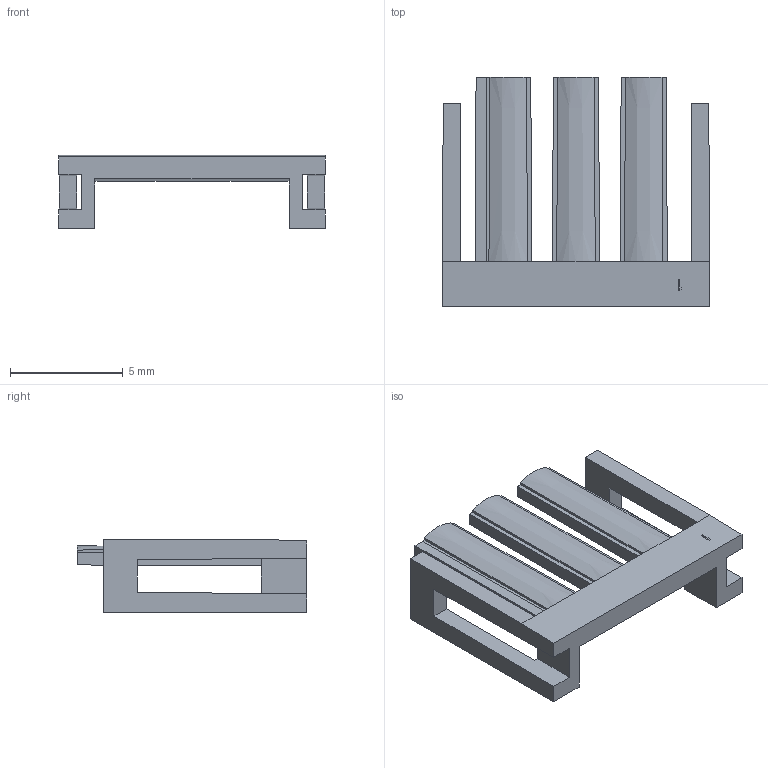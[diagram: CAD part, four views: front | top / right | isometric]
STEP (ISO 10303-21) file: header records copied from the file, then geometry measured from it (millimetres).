
FILE_DESCRIPTION((''),'2;1');
FILE_NAME('2064620300','2019-07-12T',('gga'),(''),'PRO/ENGINEER BY PARAMETRIC TECHNOLOGY CORPORATION, 2016010','PRO/ENGINEER BY PARAMETRIC TECHNOLOGY CORPORATION, 2016010','');
FILE_SCHEMA(('CONFIG_CONTROL_DESIGN'));
Length unit declared in the file: millimetre
Products named in the file (1): 2064620300
Bounding box: 11.8 x 10.15 x 3.27 mm (x, y, z)
Volume: 95.9 mm3; surface area: 352.6 mm2
Topology: 1 solids, 1 shells, 61 faces, 178 edges, 116 vertices
Faces by surface type: plane 58, cone 3
Entity records: 2026 total; most frequent: CARTESIAN_POINT 370, ORIENTED_EDGE 356, DIRECTION 302, EDGE_CURVE 178, VECTOR 166, LINE 166, VERTEX_POINT 116, AXIS2_PLACEMENT_3D 68
